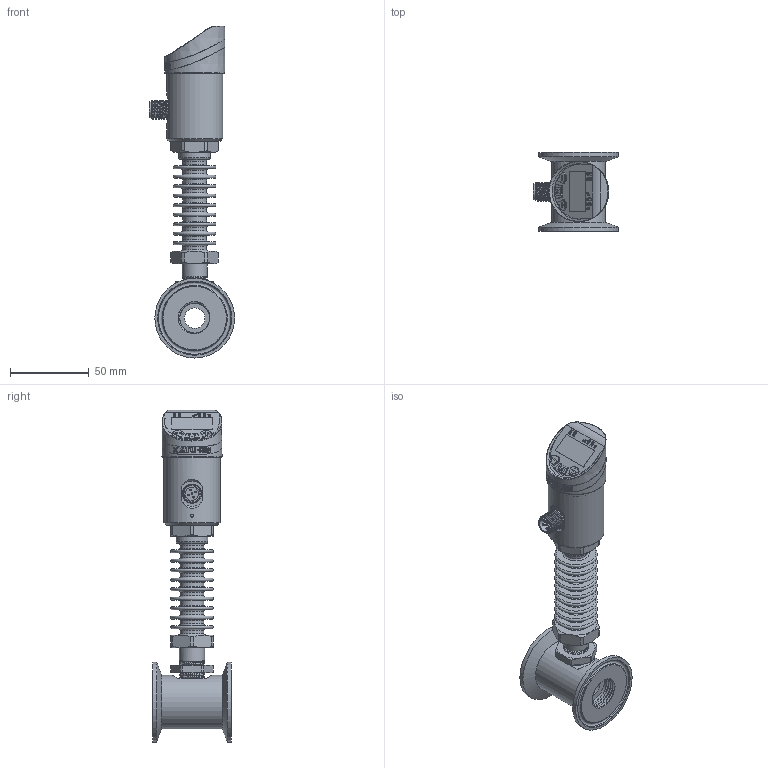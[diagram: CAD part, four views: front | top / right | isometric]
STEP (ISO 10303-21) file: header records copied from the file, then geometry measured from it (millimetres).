
FILE_DESCRIPTION( (''), '2;1');
FILE_NAME( 'QTKE_DN12_tri-clamp_high-temp.step', '2024-10-14T16:37:52+08:00', (''), (''), '', '', '');
FILE_SCHEMA (('AUTOMOTIVE_DESIGN { 1 0 10303 214 3 1 1 1 }'));
Products named in the file (1): QTKE DN12_tri-clamp_high-temp
Bounding box: 53.91 x 50 x 210.25 mm (x, y, z)
Volume: 84449.4 mm3; surface area: 59074.4 mm2
Topology: 5 solids, 5 shells, 1004 faces, 2559 edges, 1659 vertices
Faces by surface type: plane 405, cylinder 174, extrusion 160, cone 115, torus 66, bspline 63, sphere 21
Full cylindrical faces by diameter (mm): 1.689 x1, 2 x1, 2.7 x6, 3.5 x5, 12 x1, 13 x2, 15 x10, 15.9 x1, 17 x1, 20 x1, 21 x2, 23 x3, 26 x5, 31.7 x1, 32 x1, 34 x2, 34.2 x1, 35.5 x2, 50.5 x2
Entity records: 46875 total; most frequent: CARTESIAN_POINT 19908, ORIENTED_EDGE 4712, DIRECTION 4128, EDGE_CURVE 2356, VERTEX_POINT 1601, AXIS2_PLACEMENT_3D 1483, EDGE_LOOP 1253, VECTOR 1162
